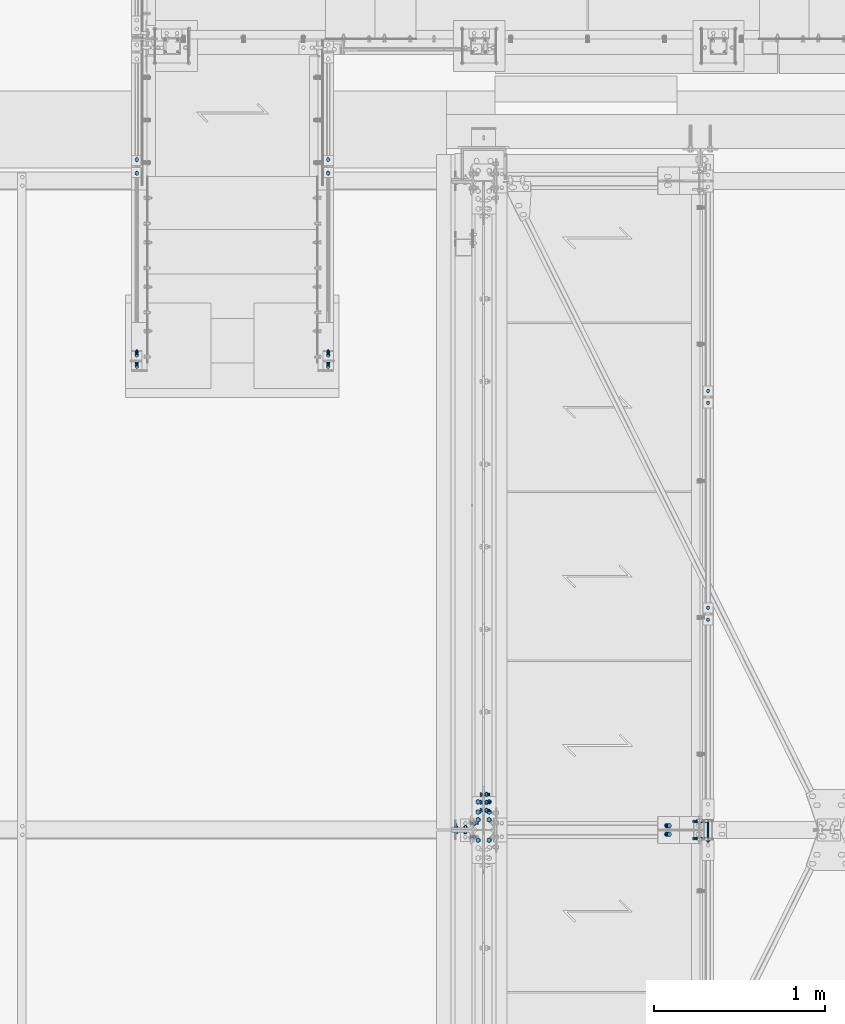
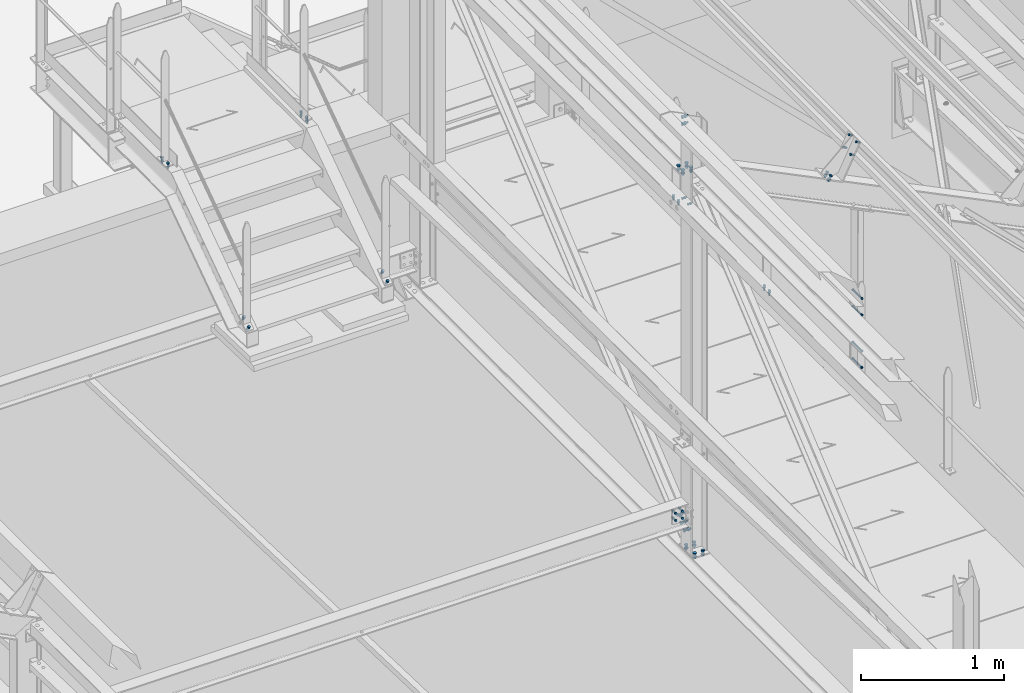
# One storey, part 194 of 362: 16 mechanical fasteners.
"""IFC2X3 building model written with IfcOpenShell, lengths in millimetres."""

from ifc_helpers import new_model, si_unit, frame, frame_2d, origin_with_axes, origin_2d_with_axis, place, context, subcontext, project, spatial, polyline, circle_curve, parameter, trimmed, segment, composite_curve, circle, outline, extrude, source, transform, mapped, material, type_object, element, save


model = new_model("IFC2X3")

# Units and contexts
model_context = context("Model", 3, precision=1e-05, world=origin_with_axes())
body_context = subcontext(model_context, "Body", "Model", "MODEL_VIEW")
ifc_project = project(units=[si_unit("LENGTHUNIT", "METRE", prefix="MILLI"), si_unit("AREAUNIT", "SQUARE_METRE"), si_unit("VOLUMEUNIT", "CUBIC_METRE"), si_unit("MASSUNIT", "GRAM", prefix="KILO"), si_unit("TIMEUNIT", "SECOND"), si_unit("PLANEANGLEUNIT", "RADIAN"), si_unit("SOLIDANGLEUNIT", "STERADIAN"), si_unit("THERMODYNAMICTEMPERATUREUNIT", "DEGREE_CELSIUS"), si_unit("LUMINOUSINTENSITYUNIT", "LUMEN")], contexts=[model_context])

# Site, building, storey
site_placement = place(None, origin_with_axes())
site = spatial("IfcSite", under=ifc_project, at=site_placement, Name="Undefined", CompositionType="ELEMENT")
building_placement = place(site_placement, origin_with_axes())
building = spatial("IfcBuilding", under=site, at=building_placement, Name="Undefined", CompositionType="ELEMENT")
storey_placement = place(building_placement, origin_with_axes())
storey = spatial("IfcBuildingStorey", under=building, at=storey_placement, Name="Undefined", CompositionType="ELEMENT", Elevation=0.0)

# Mechanical fasteners
ifc_material_1 = material(Name="8.8-SB-GALVA")
mechanical_fastener_type = type_object("IfcMechanicalFastenerType", Name="Bolt assembly")
shared_shape_1 = source(origin_with_axes(), body_context, "Body", "SweptSolid", [
    extrude(circle(Radius=7.0, at=origin_2d_with_axis()), frame((0.0, -0.100011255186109, 0.0), z_axis=(0.0, 1.0, 0.0), x_axis=(1.0, 0.0, 0.0)), (0.0, 0.0, 1.0), 12.9),
    extrude(outline(composite_curve([segment(polyline([(-7.0, 7.0), (7.0, 7.0)]), True, "CONTINUOUS"), segment(trimmed(circle_curve(frame_2d((7.0, 0.0), x_axis=(0.0, 1.0)), 7.0), [parameter(0.0)], [parameter(3.14159265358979)], False, "PARAMETER"), True, "CONTINUOUS"), segment(polyline([(7.0, -7.0), (-7.0, -7.0)]), True, "CONTINUOUS"), segment(trimmed(circle_curve(frame_2d((-7.0, 0.0), x_axis=(0.0, -1.0)), 7.0), [parameter(0.0)], [parameter(3.14159265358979)], False, "PARAMETER"), True, "DISCONTINUOUS")], self_intersect=False)), frame((0.0, -9.9, 0.0), z_axis=(0.0, 1.0, 0.0), x_axis=(1.0, 0.0, 0.0)), (0.0, 0.0, 1.0), 10.0),
    extrude(outline(polyline([(10.39230484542, 0.0), (5.19615242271, 9.00000000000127), (-5.19615242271, 9.00000000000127), (-10.39230484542, 0.0), (-5.19615242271, -9.00000000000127), (5.19615242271, -9.00000000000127), (10.39230484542, 0.0)])), frame((0.0, -21.88, 0.0), z_axis=(0.0, 1.0, 0.0), x_axis=(1.0, 0.0, 0.0)), (0.0, 0.0, 1.0), 7.92),
    extrude(circle(Radius=6.0, at=origin_2d_with_axis()), frame((0.0, -13.96, 0.0), z_axis=(0.0, 1.0, 0.0), x_axis=(1.0, 0.0, 0.0)), (0.0, 0.0, 1.0), 50.0),
    extrude(circle(Radius=10.8, at=origin_2d_with_axis()), frame((0.0, -13.96, 0.0), z_axis=(0.0, 1.0, 0.0), x_axis=(1.0, 0.0, 0.0)), (0.0, 0.0, 1.0), 3.96),
    extrude(outline(polyline([(11.5008173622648, 0.0), (5.7504086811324, 9.96000000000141), (-5.7504086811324, 9.96000000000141), (-11.5008173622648, 0.0), (-5.7504086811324, -9.96000000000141), (5.7504086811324, -9.96000000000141), (11.5008173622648, 0.0)])), frame((0.0, 12.8008451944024, 0.0), z_axis=(0.0, 1.0, 0.0), x_axis=(1.0, 0.0, 0.0)), (0.0, 0.0, 1.0), 7.92),
])
mechanical_fastener_1_placement = place(storey_placement, frame((33369.9936634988, 15245.0038033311, 8910.0), z_axis=(-1.0, 0.0, 0.0), x_axis=(0.0, 1.0, 0.0)))
element("IfcMechanicalFastener", 1, at=mechanical_fastener_1_placement, inside=storey, type_object=mechanical_fastener_type, material=ifc_material_1, Name="Bolt assembly", NominalDiameter=12.0, NominalLength=50.0, context=body_context, shape_type="MappedRepresentation", body=[
    mapped(shared_shape_1, transform((0.0, 0.0, 0.0))),
    mapped(shared_shape_1, transform((80.0, 0.0, 0.0))),
])
shared_shape_2 = source(origin_with_axes(), body_context, "Body", "SweptSolid", [
    extrude(circle(Radius=7.0, at=origin_2d_with_axis()), frame((0.0, -0.0998569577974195, 0.0), z_axis=(0.0, 1.0, 0.0), x_axis=(1.0, 0.0, 0.0)), (0.0, 0.0, 1.0), 12.9),
    extrude(outline(composite_curve([segment(polyline([(-7.0, 7.0), (7.0, 7.0)]), True, "CONTINUOUS"), segment(trimmed(circle_curve(frame_2d((7.0, 0.0), x_axis=(0.0, 1.0)), 7.0), [parameter(0.0)], [parameter(3.14159265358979)], False, "PARAMETER"), True, "CONTINUOUS"), segment(polyline([(7.0, -7.0), (-7.0, -7.0)]), True, "CONTINUOUS"), segment(trimmed(circle_curve(frame_2d((-7.0, 0.0), x_axis=(0.0, -1.0)), 7.0), [parameter(0.0)], [parameter(3.14159265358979)], False, "PARAMETER"), True, "DISCONTINUOUS")], self_intersect=False)), frame((0.0, -9.9, 0.0), z_axis=(0.0, 1.0, 0.0), x_axis=(1.0, 0.0, 0.0)), (0.0, 0.0, 1.0), 10.0),
    extrude(outline(polyline([(10.39230484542, 0.0), (5.19615242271, 9.00000000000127), (-5.19615242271, 9.00000000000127), (-10.39230484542, 0.0), (-5.19615242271, -9.00000000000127), (5.19615242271, -9.00000000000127), (10.39230484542, 0.0)])), frame((0.0, -21.88, 0.0), z_axis=(0.0, 1.0, 0.0), x_axis=(1.0, 0.0, 0.0)), (0.0, 0.0, 1.0), 7.92),
    extrude(circle(Radius=6.0, at=origin_2d_with_axis()), frame((0.0, -13.96, 0.0), z_axis=(0.0, 1.0, 0.0), x_axis=(1.0, 0.0, 0.0)), (0.0, 0.0, 1.0), 50.0),
    extrude(circle(Radius=10.8, at=origin_2d_with_axis()), frame((0.0, -13.96, 0.0), z_axis=(0.0, 1.0, 0.0), x_axis=(1.0, 0.0, 0.0)), (0.0, 0.0, 1.0), 3.96),
    extrude(outline(polyline([(11.5008173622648, 0.0), (5.7504086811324, 9.96000000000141), (-5.7504086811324, 9.96000000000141), (-11.5008173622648, 0.0), (-5.7504086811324, -9.96000000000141), (5.7504086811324, -9.96000000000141), (11.5008173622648, 0.0)])), frame((0.0, 12.7985575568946, 0.0), z_axis=(0.0, 1.0, 0.0), x_axis=(1.0, 0.0, 0.0)), (0.0, 0.0, 1.0), 7.92),
])
mechanical_fastener_2_placement = place(storey_placement, frame((32249.9863365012, 14121.9152267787, 8200.94145566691), z_axis=(-1.0, 0.0, 0.0), x_axis=(0.0, 0.822192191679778, 0.56920997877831)))
element("IfcMechanicalFastener", 2, at=mechanical_fastener_2_placement, inside=storey, type_object=mechanical_fastener_type, material=ifc_material_1, Name="Bolt assembly", NominalDiameter=12.0, NominalLength=50.0, context=body_context, shape_type="MappedRepresentation", body=[
    mapped(shared_shape_2, transform((0.0, 0.0, 0.0))),
    mapped(shared_shape_2, transform((80.0, 0.0, 0.0))),
])
shared_shape_3 = source(origin_with_axes(), body_context, "Body", "SweptSolid", [
    extrude(circle(Radius=7.0, at=origin_2d_with_axis()), frame((0.0, -0.100011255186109, 0.0), z_axis=(0.0, 1.0, 0.0), x_axis=(1.0, 0.0, 0.0)), (0.0, 0.0, 1.0), 12.9),
    extrude(outline(composite_curve([segment(polyline([(-7.0, 7.0), (7.0, 7.0)]), True, "CONTINUOUS"), segment(trimmed(circle_curve(frame_2d((7.0, 0.0), x_axis=(0.0, 1.0)), 7.0), [parameter(0.0)], [parameter(3.14159265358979)], False, "PARAMETER"), True, "CONTINUOUS"), segment(polyline([(7.0, -7.0), (-7.0, -7.0)]), True, "CONTINUOUS"), segment(trimmed(circle_curve(frame_2d((-7.0, 0.0), x_axis=(0.0, -1.0)), 7.0), [parameter(0.0)], [parameter(3.14159265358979)], False, "PARAMETER"), True, "DISCONTINUOUS")], self_intersect=False)), frame((0.0, -9.9, 0.0), z_axis=(0.0, 1.0, 0.0), x_axis=(1.0, 0.0, 0.0)), (0.0, 0.0, 1.0), 10.0),
    extrude(outline(polyline([(10.39230484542, 0.0), (5.19615242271, 9.00000000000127), (-5.19615242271, 9.00000000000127), (-10.39230484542, 0.0), (-5.19615242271, -9.00000000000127), (5.19615242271, -9.00000000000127), (10.39230484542, 0.0)])), frame((0.0, -21.88, 0.0), z_axis=(0.0, 1.0, 0.0), x_axis=(1.0, 0.0, 0.0)), (0.0, 0.0, 1.0), 7.92),
    extrude(circle(Radius=6.0, at=origin_2d_with_axis()), frame((0.0, -13.96, 0.0), z_axis=(0.0, 1.0, 0.0), x_axis=(1.0, 0.0, 0.0)), (0.0, 0.0, 1.0), 50.0),
    extrude(circle(Radius=10.8, at=origin_2d_with_axis()), frame((0.0, -13.96, 0.0), z_axis=(0.0, 1.0, 0.0), x_axis=(1.0, 0.0, 0.0)), (0.0, 0.0, 1.0), 3.96),
    extrude(outline(polyline([(11.5008173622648, 0.0), (5.7504086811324, 9.96000000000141), (-5.7504086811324, 9.96000000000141), (-11.5008173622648, 0.0), (-5.7504086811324, -9.96000000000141), (5.7504086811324, -9.96000000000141), (11.5008173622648, 0.0)])), frame((0.0, 12.7985575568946, 0.0), z_axis=(0.0, 1.0, 0.0), x_axis=(1.0, 0.0, 0.0)), (0.0, 0.0, 1.0), 7.92),
])
mechanical_fastener_3_placement = place(storey_placement, frame((32249.9863365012, 15245.0038033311, 8910.0), z_axis=(-1.0, 0.0, 0.0), x_axis=(0.0, 1.0, 0.0)))
element("IfcMechanicalFastener", 3, at=mechanical_fastener_3_placement, inside=storey, type_object=mechanical_fastener_type, material=ifc_material_1, Name="Bolt assembly", NominalDiameter=12.0, NominalLength=50.0, context=body_context, shape_type="MappedRepresentation", body=[
    mapped(shared_shape_3, transform((0.0, 0.0, 0.0))),
    mapped(shared_shape_3, transform((80.0, 0.0, 0.0))),
])
shared_shape_4 = source(origin_with_axes(), body_context, "Body", "SweptSolid", [
    extrude(circle(Radius=7.0, at=origin_2d_with_axis()), frame((0.0, -0.0998569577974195, 0.0), z_axis=(0.0, 1.0, 0.0), x_axis=(1.0, 0.0, 0.0)), (0.0, 0.0, 1.0), 12.9),
    extrude(outline(composite_curve([segment(polyline([(-7.0, 7.0), (7.0, 7.0)]), True, "CONTINUOUS"), segment(trimmed(circle_curve(frame_2d((7.0, 0.0), x_axis=(0.0, 1.0)), 7.0), [parameter(0.0)], [parameter(3.14159265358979)], False, "PARAMETER"), True, "CONTINUOUS"), segment(polyline([(7.0, -7.0), (-7.0, -7.0)]), True, "CONTINUOUS"), segment(trimmed(circle_curve(frame_2d((-7.0, 0.0), x_axis=(0.0, -1.0)), 7.0), [parameter(0.0)], [parameter(3.14159265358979)], False, "PARAMETER"), True, "DISCONTINUOUS")], self_intersect=False)), frame((0.0, -9.9, 0.0), z_axis=(0.0, 1.0, 0.0), x_axis=(1.0, 0.0, 0.0)), (0.0, 0.0, 1.0), 10.0),
    extrude(outline(polyline([(10.39230484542, 0.0), (5.19615242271, 9.00000000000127), (-5.19615242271, 9.00000000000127), (-10.39230484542, 0.0), (-5.19615242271, -9.00000000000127), (5.19615242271, -9.00000000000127), (10.39230484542, 0.0)])), frame((0.0, -21.88, 0.0), z_axis=(0.0, 1.0, 0.0), x_axis=(1.0, 0.0, 0.0)), (0.0, 0.0, 1.0), 7.92),
    extrude(circle(Radius=6.0, at=origin_2d_with_axis()), frame((0.0, -13.96, 0.0), z_axis=(0.0, 1.0, 0.0), x_axis=(1.0, 0.0, 0.0)), (0.0, 0.0, 1.0), 50.0),
    extrude(circle(Radius=10.8, at=origin_2d_with_axis()), frame((0.0, -13.96, 0.0), z_axis=(0.0, 1.0, 0.0), x_axis=(1.0, 0.0, 0.0)), (0.0, 0.0, 1.0), 3.96),
    extrude(outline(polyline([(11.5008173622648, 0.0), (5.7504086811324, 9.96000000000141), (-5.7504086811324, 9.96000000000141), (-11.5008173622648, 0.0), (-5.7504086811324, -9.96000000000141), (5.7504086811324, -9.96000000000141), (11.5008173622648, 0.0)])), frame((0.0, 12.8001574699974, 0.0), z_axis=(0.0, 1.0, 0.0), x_axis=(1.0, 0.0, 0.0)), (0.0, 0.0, 1.0), 7.92),
])
mechanical_fastener_4_placement = place(storey_placement, frame((33369.9936634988, 14121.9152267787, 8200.9414556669), z_axis=(-1.0, 0.0, 0.0), x_axis=(0.0, 0.822192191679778, 0.56920997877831)))
element("IfcMechanicalFastener", 4, at=mechanical_fastener_4_placement, inside=storey, type_object=mechanical_fastener_type, material=ifc_material_1, Name="Bolt assembly", NominalDiameter=12.0, NominalLength=50.0, context=body_context, shape_type="MappedRepresentation", body=[
    mapped(shared_shape_4, transform((0.0, 0.0, 0.0))),
    mapped(shared_shape_4, transform((80.0, 0.0, 0.0))),
])
ifc_material_2 = material(Name="8.8-SB-ZINGUE")
shared_shape_5 = source(origin_with_axes(), body_context, "Body", "SweptSolid", [
    extrude(circle(Radius=9.0, at=origin_2d_with_axis()), frame((0.0, -10.9000000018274, 0.0), z_axis=(0.0, 1.0, 0.0), x_axis=(1.0, 0.0, 0.0)), (0.0, 0.0, 1.0), 6.0),
    extrude(circle(Radius=9.0, at=origin_2d_with_axis()), frame((0.0, 4.9000000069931, 0.0), z_axis=(0.0, 1.0, 0.0), x_axis=(1.0, 0.0, 0.0)), (0.0, 0.0, 1.0), 6.1),
    extrude(circle(Radius=9.0, at=origin_2d_with_axis()), frame((0.0, -3.99999923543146, 0.0), z_axis=(0.0, 1.0, 0.0), x_axis=(1.0, 0.0, 0.0)), (0.0, 0.0, 1.0), 8.0),
    extrude(outline(polyline([(13.85640646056, 0.0), (6.92820323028, 12.0000000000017), (-6.92820323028, 12.0000000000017), (-13.85640646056, 0.0), (-6.92820323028, -12.0000000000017), (6.92820323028, -12.0000000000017), (13.85640646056, 0.0)])), frame((0.0, -21.5600000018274, 0.0), z_axis=(0.0, 1.0, 0.0), x_axis=(1.0, 0.0, 0.0)), (0.0, 0.0, 1.0), 10.56),
    extrude(circle(Radius=8.0, at=origin_2d_with_axis()), frame((0.0, -11.0000000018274, 0.0), z_axis=(0.0, 1.0, 0.0), x_axis=(1.0, 0.0, 0.0)), (0.0, 0.0, 1.0), 50.0),
    extrude(outline(polyline([(15.3344231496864, 0.0), (7.6672115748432, 13.2800000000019), (-7.6672115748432, 13.2800000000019), (-15.3344231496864, 0.0), (-7.6672115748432, -13.2800000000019), (7.6672115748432, -13.2800000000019), (15.3344231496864, 0.0)])), frame((0.0, 11.0000000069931, 0.0), z_axis=(0.0, 1.0, 0.0), x_axis=(1.0, 0.0, 0.0)), (0.0, 0.0, 1.0), 10.56),
])
mechanical_fastener_5_placement = place(storey_placement, frame((34280.0, 11515.13876123, 7346.14086364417), z_axis=(0.0, 0.640939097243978, -0.7675917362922), x_axis=(0.0, 0.7675917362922, 0.640939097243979)))
element("IfcMechanicalFastener", 5, at=mechanical_fastener_5_placement, inside=storey, type_object=mechanical_fastener_type, material=ifc_material_2, Name="Bolt assembly", NominalDiameter=16.0, NominalLength=50.0, context=body_context, shape_type="MappedRepresentation", body=[
    mapped(shared_shape_5, transform((0.0, 0.0, 0.0))),
    mapped(shared_shape_5, transform((60.0, 0.0, 0.0))),
    mapped(shared_shape_5, transform((120.0, 0.0, 0.0))),
])
shared_shape_6 = source(origin_with_axes(), body_context, "Body", "SweptSolid", [
    extrude(circle(Radius=7.0, at=origin_2d_with_axis()), frame((0.0, -10.0000010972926, 0.0), z_axis=(0.0, 1.0, 0.0), x_axis=(1.0, 0.0, 0.0)), (0.0, 0.0, 1.0), 10.1),
    extrude(outline(polyline([(10.39230484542, 0.0), (5.19615242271, 9.00000000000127), (-5.19615242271, 9.00000000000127), (-10.39230484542, 0.0), (-5.19615242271, -9.00000000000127), (5.19615242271, -9.00000000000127), (10.39230484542, 0.0)])), frame((0.0, -17.92, 0.0), z_axis=(0.0, 1.0, 0.0), x_axis=(1.0, 0.0, 0.0)), (0.0, 0.0, 1.0), 7.92),
    extrude(circle(Radius=6.0, at=origin_2d_with_axis()), frame((0.0, -10.0000010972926, 0.0), z_axis=(0.0, 1.0, 0.0), x_axis=(1.0, 0.0, 0.0)), (0.0, 0.0, 1.0), 40.0),
    extrude(outline(polyline([(11.5008173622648, 0.0), (5.7504086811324, 9.96000000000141), (-5.7504086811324, 9.96000000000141), (-11.5008173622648, 0.0), (-5.7504086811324, -9.96000000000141), (5.7504086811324, -9.96000000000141), (11.5008173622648, 0.0)])), frame((0.0, 0.0, 0.0), z_axis=(0.0, 1.0, 0.0), x_axis=(1.0, 0.0, 0.0)), (0.0, 0.0, 1.0), 7.92),
])
for number, where, z_axis, x_axis, name in (
    (6, (35593.991720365, 12630.0034319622, 8239.99999832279), (-1.0, 0.0, 0.0), (0.0, 1.0, 0.0), "Bolt assembly"),
    (7, (35593.9917214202, 13900.0034319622, 8239.99999745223), (-1.0, 0.0, 0.0), (0.0, 1.0, 0.0), "Bolt assembly"),
):
    element("IfcMechanicalFastener", number, at=place(storey_placement, frame(where, z_axis=z_axis, x_axis=x_axis)), inside=storey, type_object=mechanical_fastener_type, material=ifc_material_2, Name=name, NominalDiameter=12.0, NominalLength=40.0, context=body_context, shape_type="MappedRepresentation", body=[
        mapped(shared_shape_6, transform((0.0, 0.0, 0.0))),
        mapped(shared_shape_6, transform((70.0, -2.91038304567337e-11, 2.18278728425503e-10))),
    ])
ifc_material_3 = material(Name="6.8")
shared_shape_7 = source(origin_with_axes(), body_context, "Body", "SweptSolid", [
    extrude(circle(Radius=7.0, at=origin_2d_with_axis()), frame((0.0, -49.9999013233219, 0.0), z_axis=(0.0, 1.0, 0.0), x_axis=(1.0, 0.0, 0.0)), (0.0, 0.0, 1.0), 100.0),
    extrude(circle(Radius=7.0, at=origin_2d_with_axis()), frame((0.0, -57.3998951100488, 0.0), z_axis=(0.0, 1.0, 0.0), x_axis=(1.0, 0.0, 0.0)), (0.0, 0.0, 1.0), 5.0),
    extrude(circle(Radius=7.0, at=origin_2d_with_axis()), frame((0.0, 52.4001048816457, 0.0), z_axis=(0.0, 1.0, 0.0), x_axis=(1.0, 0.0, 0.0)), (0.0, 0.0, 1.0), 5.1),
    extrude(outline(polyline([(10.96965511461, 0.0), (5.484827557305, 9.50000000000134), (-5.484827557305, 9.50000000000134), (-10.96965511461, 0.0), (-5.484827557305, -9.50000000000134), (5.484827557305, -9.50000000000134), (10.96965511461, 0.0)])), frame((0.0, -65.4998951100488, 0.0), z_axis=(0.0, 1.0, 0.0), x_axis=(1.0, 0.0, 0.0)), (0.0, 0.0, 1.0), 8.0),
    extrude(circle(Radius=6.0, at=origin_2d_with_axis()), frame((0.0, -57.4998951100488, 0.0), z_axis=(0.0, 1.0, 0.0), x_axis=(1.0, 0.0, 0.0)), (0.0, 0.0, 1.0), 130.0),
    extrude(outline(polyline([(10.39230484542, 0.0), (5.19615242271, 9.00000000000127), (-5.19615242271, 9.00000000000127), (-10.39230484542, 0.0), (-5.19615242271, -9.00000000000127), (5.19615242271, -9.00000000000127), (10.39230484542, 0.0)])), frame((0.0, 57.5001048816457, 0.0), z_axis=(0.0, 1.0, 0.0), x_axis=(1.0, 0.0, 0.0)), (0.0, 0.0, 1.0), 10.8),
])
for number, where, z_axis, x_axis, name in (
    (8, (35593.9917197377, 11400.0000987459, 8450.1750016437), (0.0, 0.0, 1.0), (-1.0, 0.0, 0.0), "Bolt assembly"),
    (9, (35593.9917197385, 11400.000099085, 8897.42499864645), (0.0, 0.0, 1.0), (-1.0, 0.0, 0.0), "Bolt assembly"),
):
    element("IfcMechanicalFastener", number, at=place(storey_placement, frame(where, z_axis=z_axis, x_axis=x_axis)), inside=storey, type_object=mechanical_fastener_type, material=ifc_material_3, Name=name, NominalDiameter=12.0, NominalLength=130.0, context=body_context, shape_type="MappedRepresentation", body=[
        mapped(shared_shape_7, transform((0.0, 6.3664629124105e-11, -70.0))),
        mapped(shared_shape_7, transform((0.0, -6.3664629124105e-11, 70.0))),
    ])
shared_shape_8 = source(origin_with_axes(), body_context, "Body", "SweptSolid", [
    extrude(circle(Radius=9.0, at=origin_2d_with_axis()), frame((0.0, -0.0999426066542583, 0.0), z_axis=(0.0, 1.0, 0.0), x_axis=(1.0, 0.0, 0.0)), (0.0, 0.0, 1.0), 8.6),
    extrude(circle(Radius=9.0, at=origin_2d_with_axis()), frame((0.0, -9.9, 0.0), z_axis=(0.0, 1.0, 0.0), x_axis=(1.0, 0.0, 0.0)), (0.0, 0.0, 1.0), 10.0),
    extrude(outline(polyline([(13.85640646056, 0.0), (6.92820323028, 12.0000000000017), (-6.92820323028, 12.0000000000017), (-13.85640646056, 0.0), (-6.92820323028, -12.0000000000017), (6.92820323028, -12.0000000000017), (13.85640646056, 0.0)])), frame((0.0, -20.5600000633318, 0.0), z_axis=(0.0, 1.0, 0.0), x_axis=(1.0, 0.0, 0.0)), (0.0, 0.0, 1.0), 10.56),
    extrude(circle(Radius=8.0, at=origin_2d_with_axis()), frame((0.0, -10.0000010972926, 0.0), z_axis=(0.0, 1.0, 0.0), x_axis=(1.0, 0.0, 0.0)), (0.0, 0.0, 1.0), 40.0),
    extrude(outline(polyline([(15.3344231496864, 0.0), (7.6672115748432, 13.2800000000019), (-7.6672115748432, 13.2800000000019), (-15.3344231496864, 0.0), (-7.6672115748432, -13.2800000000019), (7.6672115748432, -13.2800000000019), (15.3344231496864, 0.0)])), frame((0.0, 8.49999994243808, 0.0), z_axis=(0.0, 1.0, 0.0), x_axis=(1.0, 0.0, 0.0)), (0.0, 0.0, 1.0), 10.56),
])
mechanical_fastener_6_placement = place(storey_placement, frame((35359.685680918, 11400.0000375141, 10059.5712548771), z_axis=(0.0, 1.0, 0.0), x_axis=(0.897398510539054, 0.0, -0.44122093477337)))
element("IfcMechanicalFastener", 10, at=mechanical_fastener_6_placement, inside=storey, type_object=mechanical_fastener_type, material=ifc_material_2, Name="Bolt assembly", NominalDiameter=16.0, NominalLength=40.0, context=body_context, shape_type="MappedRepresentation", body=[
    mapped(shared_shape_8, transform((0.0, 0.0, -25.0))),
    mapped(shared_shape_8, transform((0.0, 0.0, 25.0))),
])
shared_shape_9 = source(origin_with_axes(), body_context, "Body", "SweptSolid", [
    extrude(circle(Radius=7.0, at=origin_2d_with_axis()), frame((0.0, -0.10007666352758, 0.0), z_axis=(0.0, 1.0, 0.0), x_axis=(1.0, 0.0, 0.0)), (0.0, 0.0, 1.0), 1.6),
    extrude(circle(Radius=7.0, at=origin_2d_with_axis()), frame((0.0, -9.9, 0.0), z_axis=(0.0, 1.0, 0.0), x_axis=(1.0, 0.0, 0.0)), (0.0, 0.0, 1.0), 10.0),
    extrude(outline(polyline([(10.39230484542, 0.0), (5.19615242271, 9.00000000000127), (-5.19615242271, 9.00000000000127), (-10.39230484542, 0.0), (-5.19615242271, -9.00000000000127), (5.19615242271, -9.00000000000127), (10.39230484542, 0.0)])), frame((0.0, -17.92, 0.0), z_axis=(0.0, 1.0, 0.0), x_axis=(1.0, 0.0, 0.0)), (0.0, 0.0, 1.0), 7.92),
    extrude(circle(Radius=6.0, at=origin_2d_with_axis()), frame((0.0, -10.0000010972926, 0.0), z_axis=(0.0, 1.0, 0.0), x_axis=(1.0, 0.0, 0.0)), (0.0, 0.0, 1.0), 30.0),
    extrude(outline(polyline([(11.5008173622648, 0.0), (5.7504086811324, 9.96000000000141), (-5.7504086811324, 9.96000000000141), (-11.5008173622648, 0.0), (-5.7504086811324, -9.96000000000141), (5.7504086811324, -9.96000000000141), (11.5008173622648, 0.0)])), frame((0.0, 1.50001896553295, 0.0), z_axis=(0.0, 1.0, 0.0), x_axis=(1.0, 0.0, 0.0)), (0.0, 0.0, 1.0), 7.92),
])
mechanical_fastener_7_placement = place(storey_placement, frame((35523.6927473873, 11400.0000596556, 10211.8298161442), z_axis=(0.0, 1.0, 0.0), x_axis=(0.44122107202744, 0.0, 0.89739844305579)))
element("IfcMechanicalFastener", 11, at=mechanical_fastener_7_placement, inside=storey, type_object=mechanical_fastener_type, material=ifc_material_2, Name="Bolt assembly", NominalDiameter=12.0, NominalLength=30.0, context=body_context, shape_type="MappedRepresentation", body=[
    mapped(shared_shape_9, transform((0.0, 0.0, -50.0))),
    mapped(shared_shape_9, transform((102.00000000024, -2.51020537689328e-10, -50.0))),
    mapped(shared_shape_9, transform((0.0, 0.0, 50.0))),
    mapped(shared_shape_9, transform((102.00000000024, -2.51020537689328e-10, 50.0))),
])
shared_shape_10 = source(origin_with_axes(), body_context, "Body", "SweptSolid", [
    extrude(circle(Radius=7.0, at=origin_2d_with_axis()), frame((0.0, -0.100011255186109, 0.0), z_axis=(0.0, 1.0, 0.0), x_axis=(1.0, 0.0, 0.0)), (0.0, 0.0, 1.0), 8.6),
    extrude(circle(Radius=7.0, at=origin_2d_with_axis()), frame((0.0, -3.89999843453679, 0.0), z_axis=(0.0, 1.0, 0.0), x_axis=(1.0, 0.0, 0.0)), (0.0, 0.0, 1.0), 4.0),
    extrude(outline(polyline([(10.39230484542, 0.0), (5.19615242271, 9.00000000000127), (-5.19615242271, 9.00000000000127), (-10.39230484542, 0.0), (-5.19615242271, -9.00000000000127), (5.19615242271, -9.00000000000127), (10.39230484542, 0.0)])), frame((0.0, -11.9199984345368, 0.0), z_axis=(0.0, 1.0, 0.0), x_axis=(1.0, 0.0, 0.0)), (0.0, 0.0, 1.0), 7.92),
    extrude(circle(Radius=6.0, at=origin_2d_with_axis()), frame((0.0, -3.99999923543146, 0.0), z_axis=(0.0, 1.0, 0.0), x_axis=(1.0, 0.0, 0.0)), (0.0, 0.0, 1.0), 30.0),
    extrude(outline(polyline([(11.5008173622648, 0.0), (5.7504086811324, 9.96000000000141), (-5.7504086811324, 9.96000000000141), (-11.5008173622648, 0.0), (-5.7504086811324, -9.96000000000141), (5.7504086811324, -9.96000000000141), (11.5008173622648, 0.0)])), frame((0.0, 8.49999994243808, 0.0), z_axis=(0.0, 1.0, 0.0), x_axis=(1.0, 0.0, 0.0)), (0.0, 0.0, 1.0), 7.92),
])
mechanical_fastener_8_placement = place(storey_placement, frame((34213.4999999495, 11400.0, 10244.9999981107), z_axis=(0.0, 1.0, 0.0), x_axis=(0.0, 0.0, 1.0)))
element("IfcMechanicalFastener", 12, at=mechanical_fastener_8_placement, inside=storey, type_object=mechanical_fastener_type, material=ifc_material_2, Name="Bolt assembly", NominalDiameter=12.0, NominalLength=30.0, context=body_context, shape_type="MappedRepresentation", body=[
    mapped(shared_shape_10, transform((0.0, 0.0, -40.0))),
    mapped(shared_shape_10, transform((0.0, 0.0, 40.0))),
])
shared_shape_11 = source(origin_with_axes(), body_context, "Body", "SweptSolid", [
    extrude(circle(Radius=9.0, at=origin_2d_with_axis()), frame((0.0, -0.100011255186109, 0.0), z_axis=(0.0, 1.0, 0.0), x_axis=(1.0, 0.0, 0.0)), (0.0, 0.0, 1.0), 8.6),
    extrude(circle(Radius=9.0, at=origin_2d_with_axis()), frame((0.0, -2.9, 0.0), z_axis=(0.0, 1.0, 0.0), x_axis=(1.0, 0.0, 0.0)), (0.0, 0.0, 1.0), 3.0),
    extrude(outline(polyline([(13.85640646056, 0.0), (6.92820323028, 12.0000000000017), (-6.92820323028, 12.0000000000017), (-13.85640646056, 0.0), (-6.92820323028, -12.0000000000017), (6.92820323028, -12.0000000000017), (13.85640646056, 0.0)])), frame((0.0, -13.56, 0.0), z_axis=(0.0, 1.0, 0.0), x_axis=(1.0, 0.0, 0.0)), (0.0, 0.0, 1.0), 10.56),
    extrude(circle(Radius=8.0, at=origin_2d_with_axis()), frame((0.0, -2.99999932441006, 0.0), z_axis=(0.0, 1.0, 0.0), x_axis=(1.0, 0.0, 0.0)), (0.0, 0.0, 1.0), 40.0),
    extrude(outline(polyline([(15.3344231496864, 0.0), (7.6672115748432, 13.2800000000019), (-7.6672115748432, 13.2800000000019), (-15.3344231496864, 0.0), (-7.6672115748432, -13.2800000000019), (7.6672115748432, -13.2800000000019), (15.3344231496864, 0.0)])), frame((0.0, 8.49999994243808, 0.0), z_axis=(0.0, 1.0, 0.0), x_axis=(1.0, 0.0, 0.0)), (0.0, 0.0, 1.0), 10.56),
])
mechanical_fastener_9_placement = place(storey_placement, frame((34213.49999895, 11439.9969509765, 10880.8421014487), z_axis=(0.0, 1.0, 0.0), x_axis=(0.0, 0.0, 1.0)))
element("IfcMechanicalFastener", 13, at=mechanical_fastener_9_placement, inside=storey, type_object=mechanical_fastener_type, material=ifc_material_2, Name="Bolt assembly", NominalDiameter=16.0, NominalLength=40.0, context=body_context, shape_type="MappedRepresentation", body=[
    mapped(shared_shape_11, transform((0.0, 0.0, 0.0))),
    mapped(shared_shape_11, transform((60.0, 0.0, 0.0))),
])
shared_shape_12 = source(origin_with_axes(), body_context, "Body", "SweptSolid", [
    extrude(circle(Radius=7.0, at=origin_2d_with_axis()), frame((0.0, -2.80024280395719, 0.0), z_axis=(0.0, 1.0, 0.0), x_axis=(1.0, 0.0, 0.0)), (0.0, 0.0, 1.0), 5.6),
    extrude(circle(Radius=7.0, at=origin_2d_with_axis()), frame((0.0, -12.9001594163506, 0.0), z_axis=(0.0, 1.0, 0.0), x_axis=(1.0, 0.0, 0.0)), (0.0, 0.0, 1.0), 10.0),
    extrude(circle(Radius=7.0, at=origin_2d_with_axis()), frame((0.0, 2.90070287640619, 0.0), z_axis=(0.0, 1.0, 0.0), x_axis=(1.0, 0.0, 0.0)), (0.0, 0.0, 1.0), 10.1),
    extrude(outline(polyline([(10.39230484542, 0.0), (5.19615242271, 9.00000000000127), (-5.19615242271, 9.00000000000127), (-10.39230484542, 0.0), (-5.19615242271, -9.00000000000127), (5.19615242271, -9.00000000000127), (10.39230484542, 0.0)])), frame((0.0, -20.9201594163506, 0.0), z_axis=(0.0, 1.0, 0.0), x_axis=(1.0, 0.0, 0.0)), (0.0, 0.0, 1.0), 7.92),
    extrude(circle(Radius=6.0, at=origin_2d_with_axis()), frame((0.0, -13.0001594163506, 0.0), z_axis=(0.0, 1.0, 0.0), x_axis=(1.0, 0.0, 0.0)), (0.0, 0.0, 1.0), 50.0),
    extrude(outline(polyline([(11.5008173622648, 0.0), (5.7504086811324, 9.96000000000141), (-5.7504086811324, 9.96000000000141), (-11.5008173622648, 0.0), (-5.7504086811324, -9.96000000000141), (5.7504086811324, -9.96000000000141), (11.5008173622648, 0.0)])), frame((0.0, 13.0007028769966, 0.0), z_axis=(0.0, 1.0, 0.0), x_axis=(1.0, 0.0, 0.0)), (0.0, 0.0, 1.0), 7.92),
])
mechanical_fastener_10_placement = place(storey_placement, frame((34118.4999999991, 11400.0001456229, 7591.6893851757), z_axis=(7.58071938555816e-11, 0.0314107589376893, 0.999506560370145), x_axis=(0.999999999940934, -1.08559999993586e-05, 5.27999997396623e-07)))
element("IfcMechanicalFastener", 14, at=mechanical_fastener_10_placement, inside=storey, type_object=mechanical_fastener_type, material=ifc_material_2, Name="Bolt assembly", NominalDiameter=12.0, NominalLength=50.0, context=body_context, shape_type="MappedRepresentation", body=[
    mapped(shared_shape_12, transform((0.0, 0.0, -30.0))),
    mapped(shared_shape_12, transform((55.0000000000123, 3.45607986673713e-11, -30.0000000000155))),
    mapped(shared_shape_12, transform((0.0, 0.0, 30.0))),
    mapped(shared_shape_12, transform((54.9999999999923, 3.45607986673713e-11, 29.9999999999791))),
])
shared_shape_13 = source(origin_with_axes(), body_context, "Body", "SweptSolid", [
    extrude(circle(Radius=9.0, at=origin_2d_with_axis()), frame((0.0, -0.10007666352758, 0.0), z_axis=(0.0, 1.0, 0.0), x_axis=(1.0, 0.0, 0.0)), (0.0, 0.0, 1.0), 8.6),
    extrude(circle(Radius=9.0, at=origin_2d_with_axis()), frame((0.0, -9.9, 0.0), z_axis=(0.0, 1.0, 0.0), x_axis=(1.0, 0.0, 0.0)), (0.0, 0.0, 1.0), 10.0),
    extrude(outline(polyline([(13.85640646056, 0.0), (6.92820323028, 12.0000000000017), (-6.92820323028, 12.0000000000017), (-13.85640646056, 0.0), (-6.92820323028, -12.0000000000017), (6.92820323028, -12.0000000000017), (13.85640646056, 0.0)])), frame((0.0, -20.5600000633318, 0.0), z_axis=(0.0, 1.0, 0.0), x_axis=(1.0, 0.0, 0.0)), (0.0, 0.0, 1.0), 10.56),
    extrude(circle(Radius=8.0, at=origin_2d_with_axis()), frame((0.0, -10.0000010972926, 0.0), z_axis=(0.0, 1.0, 0.0), x_axis=(1.0, 0.0, 0.0)), (0.0, 0.0, 1.0), 40.0),
    extrude(outline(polyline([(15.3344231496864, 0.0), (7.6672115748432, 13.2800000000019), (-7.6672115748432, 13.2800000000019), (-15.3344231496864, 0.0), (-7.6672115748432, -13.2800000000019), (7.6672115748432, -13.2800000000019), (15.3344231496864, 0.0)])), frame((0.0, 8.49999994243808, 0.0), z_axis=(0.0, 1.0, 0.0), x_axis=(1.0, 0.0, 0.0)), (0.0, 0.0, 1.0), 10.56),
])
mechanical_fastener_11_placement = place(storey_placement, frame((34280.0, 11340.0, 7249.9999684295), z_axis=(-1.0, 0.0, 0.0), x_axis=(0.0, 1.0, 0.0)))
element("IfcMechanicalFastener", 15, at=mechanical_fastener_11_placement, inside=storey, type_object=mechanical_fastener_type, material=ifc_material_2, Name="Bolt assembly", NominalDiameter=16.0, NominalLength=40.0, context=body_context, shape_type="MappedRepresentation", body=[
    mapped(shared_shape_13, transform((0.0, 0.0, -32.5))),
    mapped(shared_shape_13, transform((120.0, 0.0, -32.5))),
    mapped(shared_shape_13, transform((0.0, 0.0, 32.5))),
    mapped(shared_shape_13, transform((120.0, 0.0, 32.5))),
])
shared_shape_14 = source(origin_with_axes(), body_context, "Body", "SweptSolid", [
    extrude(circle(Radius=9.0, at=origin_2d_with_axis()), frame((0.0, -8.40001950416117, 0.0), z_axis=(0.0, 1.0, 0.0), x_axis=(1.0, 0.0, 0.0)), (0.0, 0.0, 1.0), 8.5),
    extrude(circle(Radius=9.0, at=origin_2d_with_axis()), frame((0.0, -0.100011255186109, 0.0), z_axis=(0.0, 1.0, 0.0), x_axis=(1.0, 0.0, 0.0)), (0.0, 0.0, 1.0), 10.1),
    extrude(outline(polyline([(13.85640646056, 0.0), (6.92820323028, 12.0000000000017), (-6.92820323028, 12.0000000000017), (-13.85640646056, 0.0), (-6.92820323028, -12.0000000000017), (6.92820323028, -12.0000000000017), (13.85640646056, 0.0)])), frame((0.0, -19.0599999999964, 0.0), z_axis=(0.0, 1.0, 0.0), x_axis=(1.0, 0.0, 0.0)), (0.0, 0.0, 1.0), 10.56),
    extrude(circle(Radius=8.0, at=origin_2d_with_axis()), frame((0.0, -8.5, 0.0), z_axis=(0.0, 1.0, 0.0), x_axis=(1.0, 0.0, 0.0)), (0.0, 0.0, 1.0), 40.0),
    extrude(outline(polyline([(15.3344231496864, 0.0), (7.6672115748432, 13.2800000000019), (-7.6672115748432, 13.2800000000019), (-15.3344231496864, 0.0), (-7.6672115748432, -13.2800000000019), (7.6672115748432, -13.2800000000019), (15.3344231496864, 0.0)])), frame((0.0, 10.0000000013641, 0.0), z_axis=(0.0, 1.0, 0.0), x_axis=(1.0, 0.0, 0.0)), (0.0, 0.0, 1.0), 10.56),
])
mechanical_fastener_12_placement = place(storey_placement, frame((34280.0000000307, 11505.0, 10423.0), z_axis=(-1.0, 0.0, 0.0), x_axis=(0.0, 1.0, 0.0)))
element("IfcMechanicalFastener", 16, at=mechanical_fastener_12_placement, inside=storey, type_object=mechanical_fastener_type, material=ifc_material_2, Name="Bolt assembly", NominalDiameter=16.0, NominalLength=40.0, context=body_context, shape_type="MappedRepresentation", body=[
    mapped(shared_shape_14, transform((0.0, 0.0, -32.5))),
    mapped(shared_shape_14, transform((60.0, 0.0, -32.5))),
    mapped(shared_shape_14, transform((0.0, 0.0, 32.5))),
    mapped(shared_shape_14, transform((60.0, 0.0, 32.5))),
])

save(model, "model.ifc")
